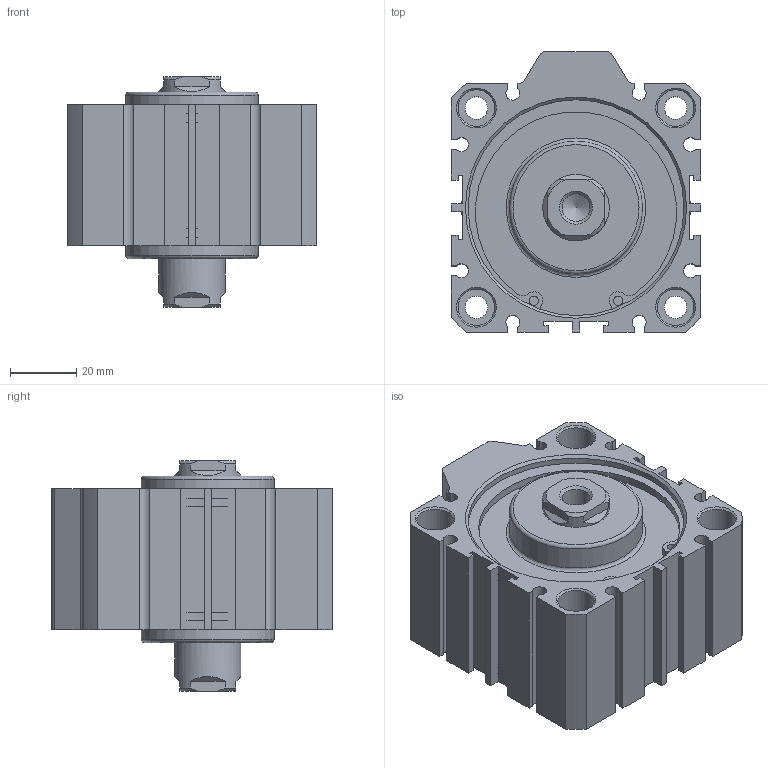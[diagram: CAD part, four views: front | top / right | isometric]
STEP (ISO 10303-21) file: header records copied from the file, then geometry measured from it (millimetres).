
FILE_DESCRIPTION((''),'2;1');
FILE_NAME('I:\3D電子目錄\氣缸\JDD\JDD\JDD63\JDD63x10.stp','2007-02-08T11:22:57',('662F206'),(''),'Autodesk Inventor 10','Autodesk Inventor 10','');
FILE_SCHEMA(('AUTOMOTIVE_DESIGN { 1 0 10303 214 1 1 1 1 }'));
Length unit declared in the file: millimetre
Products named in the file (3): JDD63; R 形環 65
Assembly tree (3 placements, depth 2):
  JDD63
    JDD63
    R 形環 65  x2
Bounding box: 75 x 84.5 x 69.5 mm (x, y, z)
Volume: 216712.6 mm3; surface area: 46988.7 mm2
Topology: 3 solids, 3 shells, 204 faces, 514 edges, 338 vertices
Faces by surface type: plane 116, cylinder 56, cone 24, bspline 6, torus 2
Full cylindrical faces by diameter (mm): 2.7 x4, 3 x2, 6.8 x4, 11 x8, 20 x2, 40 x2, 65 x4, 68 x2
Entity records: 5651 total; most frequent: CARTESIAN_POINT 1118, DIRECTION 936, ORIENTED_EDGE 848, EDGE_CURVE 424, AXIS2_PLACEMENT_3D 336, VERTEX_POINT 308, EDGE_LOOP 276, VECTOR 264
